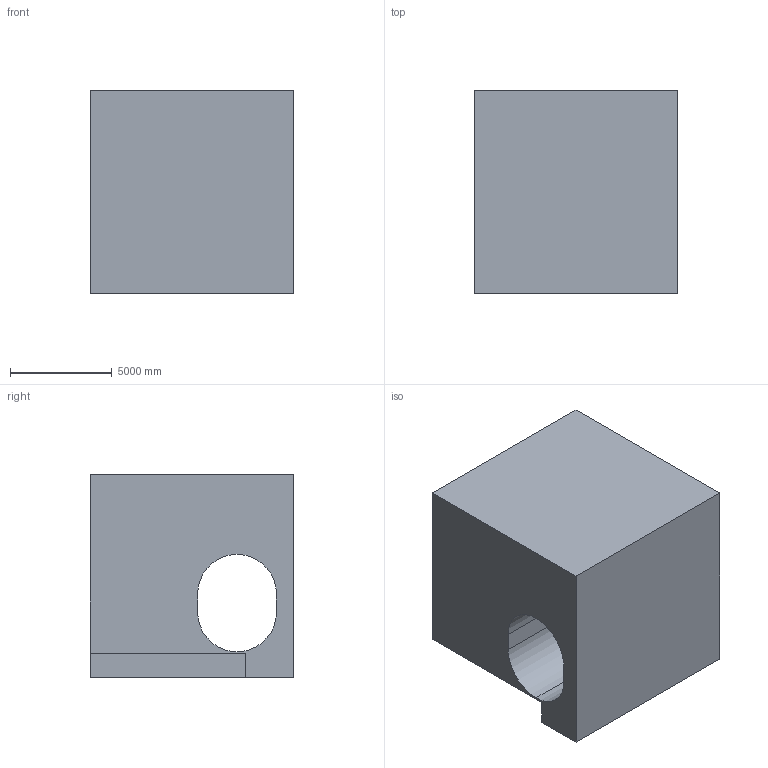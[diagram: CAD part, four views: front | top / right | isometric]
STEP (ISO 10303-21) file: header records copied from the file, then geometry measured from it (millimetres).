
FILE_DESCRIPTION (( 'STEP AP203' ), '1' );
FILE_NAME ('112.STEP', '2022-09-06T15:06:46', ( 'user' ), ( '' ), 'SwSTEP 2.0', 'SolidWorks 2021', '' );
FILE_SCHEMA (( 'CONFIG_CONTROL_DESIGN' ));
Length unit declared in the file: centimetre
Products named in the file (1): 112
Bounding box: 10000 x 10000 x 10000 mm (x, y, z)
Volume: 828638116491.1 mm3; surface area: 709360253.2 mm2
Topology: 1 solids, 1 shells, 14 faces, 36 edges, 24 vertices
Faces by surface type: plane 11, cylinder 3
Entity records: 507 total; most frequent: CARTESIAN_POINT 75, ORIENTED_EDGE 72, DIRECTION 72, EDGE_CURVE 36, LINE 30, VECTOR 30, VERTEX_POINT 24, AXIS2_PLACEMENT_3D 21
